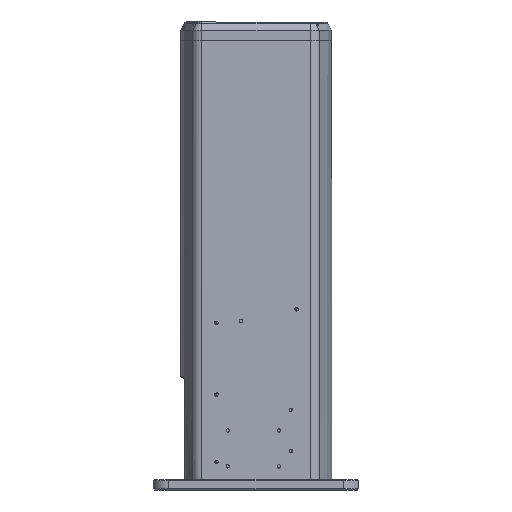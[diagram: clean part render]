
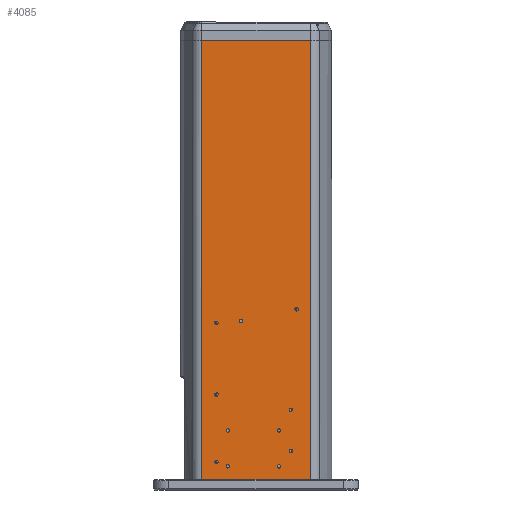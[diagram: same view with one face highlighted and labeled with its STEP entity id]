
A CAD part, left-side view. The second image highlights one B-rep face of the part: STEP entity #4085.
In plain terms, the highlighted planar face has unit normal (-1, 0, 0) as drawn and (0, 0, 1) by its records, which use the part's own axes.
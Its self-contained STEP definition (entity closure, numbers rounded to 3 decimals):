
#80=CARTESIAN_POINT('Vertex',(549.077,-39.277,63.)) ;
#85=CARTESIAN_POINT('Axis2P3D Location',(550.5,-38.5,63.)) ;
#89=CARTESIAN_POINT('Vertex',(551.923,-37.723,63.)) ;
#116=CARTESIAN_POINT('Axis2P3D Location',(550.5,-38.5,63.)) ;
#297=CARTESIAN_POINT('Axis2P3D Location',(555.,22.5,63.)) ;
#301=CARTESIAN_POINT('Vertex',(556.423,21.723,63.)) ;
#303=CARTESIAN_POINT('Vertex',(553.577,23.277,63.)) ;
#337=CARTESIAN_POINT('Axis2P3D Location',(555.,22.5,63.)) ;
#359=CARTESIAN_POINT('Axis2P3D Location',(555.,-27.5,63.)) ;
#363=CARTESIAN_POINT('Vertex',(556.423,-28.277,63.)) ;
#365=CARTESIAN_POINT('Vertex',(553.577,-26.723,63.)) ;
#399=CARTESIAN_POINT('Axis2P3D Location',(555.,-27.5,63.)) ;
#421=CARTESIAN_POINT('Axis2P3D Location',(413.5,-14.5,63.)) ;
#425=CARTESIAN_POINT('Vertex',(414.923,-15.277,63.)) ;
#427=CARTESIAN_POINT('Vertex',(412.077,-13.723,63.)) ;
#461=CARTESIAN_POINT('Axis2P3D Location',(413.5,-14.5,63.)) ;
#483=CARTESIAN_POINT('Axis2P3D Location',(520.,-27.5,63.)) ;
#487=CARTESIAN_POINT('Vertex',(521.423,-28.277,63.)) ;
#489=CARTESIAN_POINT('Vertex',(518.577,-26.723,63.)) ;
#523=CARTESIAN_POINT('Axis2P3D Location',(520.,-27.5,63.)) ;
#558=CARTESIAN_POINT('Vertex',(498.577,33.223,63.)) ;
#561=CARTESIAN_POINT('Axis2P3D Location',(500.,34.,63.)) ;
#565=CARTESIAN_POINT('Vertex',(501.423,34.777,63.)) ;
#590=CARTESIAN_POINT('Axis2P3D Location',(500.,34.,63.)) ;
#620=CARTESIAN_POINT('Vertex',(538.577,33.223,63.)) ;
#623=CARTESIAN_POINT('Axis2P3D Location',(540.,34.,63.)) ;
#627=CARTESIAN_POINT('Vertex',(541.423,34.777,63.)) ;
#652=CARTESIAN_POINT('Axis2P3D Location',(540.,34.,63.)) ;
#682=CARTESIAN_POINT('Vertex',(483.577,-39.277,63.)) ;
#685=CARTESIAN_POINT('Axis2P3D Location',(485.,-38.5,63.)) ;
#689=CARTESIAN_POINT('Vertex',(486.423,-37.723,63.)) ;
#714=CARTESIAN_POINT('Axis2P3D Location',(485.,-38.5,63.)) ;
#744=CARTESIAN_POINT('Vertex',(413.577,-39.277,63.)) ;
#747=CARTESIAN_POINT('Axis2P3D Location',(415.,-38.5,63.)) ;
#751=CARTESIAN_POINT('Vertex',(416.423,-37.723,63.)) ;
#776=CARTESIAN_POINT('Axis2P3D Location',(415.,-38.5,63.)) ;
#1089=CARTESIAN_POINT('Vertex',(400.577,38.723,63.)) ;
#1094=CARTESIAN_POINT('Axis2P3D Location',(402.,39.5,63.)) ;
#1098=CARTESIAN_POINT('Vertex',(403.423,40.277,63.)) ;
#1125=CARTESIAN_POINT('Axis2P3D Location',(402.,39.5,63.)) ;
#1209=CARTESIAN_POINT('Axis2P3D Location',(520.,22.5,63.)) ;
#1213=CARTESIAN_POINT('Vertex',(521.423,21.723,63.)) ;
#1215=CARTESIAN_POINT('Vertex',(518.577,23.277,63.)) ;
#1249=CARTESIAN_POINT('Axis2P3D Location',(520.,22.5,63.)) ;
#3449=CARTESIAN_POINT('Vertex',(568.,52.706,63.)) ;
#3452=CARTESIAN_POINT('Line Origine',(568.,0.,63.)) ;
#3456=CARTESIAN_POINT('Vertex',(568.,-52.706,63.)) ;
#4011=CARTESIAN_POINT('Axis2P3D Location',(0.,63.,63.)) ;
#4016=CARTESIAN_POINT('Line Origine',(354.,-52.706,63.)) ;
#4020=CARTESIAN_POINT('Vertex',(140.,-52.706,63.)) ;
#4023=CARTESIAN_POINT('Line Origine',(354.,52.706,63.)) ;
#4027=CARTESIAN_POINT('Vertex',(140.,52.706,63.)) ;
#4030=CARTESIAN_POINT('Line Origine',(140.,0.,63.)) ;
#86=DIRECTION('Axis2P3D Direction',(0.,0.,1.)) ;
#117=DIRECTION('Axis2P3D Direction',(0.,-0.,1.)) ;
#298=DIRECTION('Axis2P3D Direction',(0.,0.,-1.)) ;
#338=DIRECTION('Axis2P3D Direction',(0.,0.,-1.)) ;
#360=DIRECTION('Axis2P3D Direction',(0.,0.,-1.)) ;
#400=DIRECTION('Axis2P3D Direction',(0.,0.,-1.)) ;
#422=DIRECTION('Axis2P3D Direction',(0.,0.,-1.)) ;
#462=DIRECTION('Axis2P3D Direction',(0.,-0.,-1.)) ;
#484=DIRECTION('Axis2P3D Direction',(0.,0.,-1.)) ;
#524=DIRECTION('Axis2P3D Direction',(0.,-0.,-1.)) ;
#562=DIRECTION('Axis2P3D Direction',(0.,0.,1.)) ;
#591=DIRECTION('Axis2P3D Direction',(0.,-0.,1.)) ;
#624=DIRECTION('Axis2P3D Direction',(0.,0.,1.)) ;
#653=DIRECTION('Axis2P3D Direction',(0.,-0.,1.)) ;
#686=DIRECTION('Axis2P3D Direction',(0.,0.,1.)) ;
#715=DIRECTION('Axis2P3D Direction',(0.,-0.,1.)) ;
#748=DIRECTION('Axis2P3D Direction',(0.,0.,1.)) ;
#777=DIRECTION('Axis2P3D Direction',(0.,-0.,1.)) ;
#1095=DIRECTION('Axis2P3D Direction',(0.,0.,1.)) ;
#1126=DIRECTION('Axis2P3D Direction',(0.,-0.,1.)) ;
#1210=DIRECTION('Axis2P3D Direction',(0.,0.,-1.)) ;
#1250=DIRECTION('Axis2P3D Direction',(0.,0.,-1.)) ;
#3453=DIRECTION('Vector Direction',(0.,-1.,0.)) ;
#4012=DIRECTION('Axis2P3D Direction',(-0.,0.,1.)) ;
#4013=DIRECTION('Axis2P3D XDirection',(0.,-1.,0.)) ;
#4017=DIRECTION('Vector Direction',(-1.,0.,0.)) ;
#4024=DIRECTION('Vector Direction',(-1.,0.,0.)) ;
#4031=DIRECTION('Vector Direction',(0.,-1.,0.)) ;
#87=AXIS2_PLACEMENT_3D('Circle Axis2P3D',#85,#86,$) ;
#118=AXIS2_PLACEMENT_3D('Circle Axis2P3D',#116,#117,$) ;
#299=AXIS2_PLACEMENT_3D('Circle Axis2P3D',#297,#298,$) ;
#339=AXIS2_PLACEMENT_3D('Circle Axis2P3D',#337,#338,$) ;
#361=AXIS2_PLACEMENT_3D('Circle Axis2P3D',#359,#360,$) ;
#401=AXIS2_PLACEMENT_3D('Circle Axis2P3D',#399,#400,$) ;
#423=AXIS2_PLACEMENT_3D('Circle Axis2P3D',#421,#422,$) ;
#463=AXIS2_PLACEMENT_3D('Circle Axis2P3D',#461,#462,$) ;
#485=AXIS2_PLACEMENT_3D('Circle Axis2P3D',#483,#484,$) ;
#525=AXIS2_PLACEMENT_3D('Circle Axis2P3D',#523,#524,$) ;
#563=AXIS2_PLACEMENT_3D('Circle Axis2P3D',#561,#562,$) ;
#592=AXIS2_PLACEMENT_3D('Circle Axis2P3D',#590,#591,$) ;
#625=AXIS2_PLACEMENT_3D('Circle Axis2P3D',#623,#624,$) ;
#654=AXIS2_PLACEMENT_3D('Circle Axis2P3D',#652,#653,$) ;
#687=AXIS2_PLACEMENT_3D('Circle Axis2P3D',#685,#686,$) ;
#716=AXIS2_PLACEMENT_3D('Circle Axis2P3D',#714,#715,$) ;
#749=AXIS2_PLACEMENT_3D('Circle Axis2P3D',#747,#748,$) ;
#778=AXIS2_PLACEMENT_3D('Circle Axis2P3D',#776,#777,$) ;
#1096=AXIS2_PLACEMENT_3D('Circle Axis2P3D',#1094,#1095,$) ;
#1127=AXIS2_PLACEMENT_3D('Circle Axis2P3D',#1125,#1126,$) ;
#1211=AXIS2_PLACEMENT_3D('Circle Axis2P3D',#1209,#1210,$) ;
#1251=AXIS2_PLACEMENT_3D('Circle Axis2P3D',#1249,#1250,$) ;
#4014=AXIS2_PLACEMENT_3D('Plane Axis2P3D',#4011,#4012,#4013) ;
#4036=ORIENTED_EDGE('',*,*,#4022,.T.) ;
#4037=ORIENTED_EDGE('',*,*,#3458,.F.) ;
#4038=ORIENTED_EDGE('',*,*,#4029,.F.) ;
#4039=ORIENTED_EDGE('',*,*,#4034,.T.) ;
#4042=ORIENTED_EDGE('',*,*,#1217,.F.) ;
#4043=ORIENTED_EDGE('',*,*,#1253,.F.) ;
#4046=ORIENTED_EDGE('',*,*,#1129,.F.) ;
#4047=ORIENTED_EDGE('',*,*,#1100,.F.) ;
#4050=ORIENTED_EDGE('',*,*,#780,.F.) ;
#4051=ORIENTED_EDGE('',*,*,#753,.F.) ;
#4054=ORIENTED_EDGE('',*,*,#718,.F.) ;
#4055=ORIENTED_EDGE('',*,*,#691,.F.) ;
#4058=ORIENTED_EDGE('',*,*,#656,.F.) ;
#4059=ORIENTED_EDGE('',*,*,#629,.F.) ;
#4062=ORIENTED_EDGE('',*,*,#594,.F.) ;
#4063=ORIENTED_EDGE('',*,*,#567,.F.) ;
#4066=ORIENTED_EDGE('',*,*,#527,.F.) ;
#4067=ORIENTED_EDGE('',*,*,#491,.F.) ;
#4070=ORIENTED_EDGE('',*,*,#465,.F.) ;
#4071=ORIENTED_EDGE('',*,*,#429,.F.) ;
#4074=ORIENTED_EDGE('',*,*,#341,.F.) ;
#4075=ORIENTED_EDGE('',*,*,#305,.F.) ;
#4078=ORIENTED_EDGE('',*,*,#403,.F.) ;
#4079=ORIENTED_EDGE('',*,*,#367,.F.) ;
#4082=ORIENTED_EDGE('',*,*,#91,.F.) ;
#4083=ORIENTED_EDGE('',*,*,#120,.F.) ;
#4044=FACE_BOUND('',#4041,.T.) ;
#4048=FACE_BOUND('',#4045,.T.) ;
#4052=FACE_BOUND('',#4049,.T.) ;
#4056=FACE_BOUND('',#4053,.T.) ;
#4060=FACE_BOUND('',#4057,.T.) ;
#4064=FACE_BOUND('',#4061,.T.) ;
#4068=FACE_BOUND('',#4065,.T.) ;
#4072=FACE_BOUND('',#4069,.T.) ;
#4076=FACE_BOUND('',#4073,.T.) ;
#4080=FACE_BOUND('',#4077,.T.) ;
#4084=FACE_BOUND('',#4081,.T.) ;
#3454=VECTOR('Line Direction',#3453,1.) ;
#4018=VECTOR('Line Direction',#4017,1.) ;
#4025=VECTOR('Line Direction',#4024,1.) ;
#4032=VECTOR('Line Direction',#4031,1.) ;
#4085=ADVANCED_FACE('\X2\96F64EF651E04F554F53\X0\',(#4040,#4044,#4048,#4052,#4056,#4060,#4064,#4068,#4072,#4076,#4080,#4084),#4015,.T.) ;
#88=CIRCLE('generated circle',#87,1.621) ;
#119=CIRCLE('generated circle',#118,1.621) ;
#300=CIRCLE('generated circle',#299,1.621) ;
#340=CIRCLE('generated circle',#339,1.621) ;
#362=CIRCLE('generated circle',#361,1.621) ;
#402=CIRCLE('generated circle',#401,1.621) ;
#424=CIRCLE('generated circle',#423,1.621) ;
#464=CIRCLE('generated circle',#463,1.621) ;
#486=CIRCLE('generated circle',#485,1.621) ;
#526=CIRCLE('generated circle',#525,1.621) ;
#564=CIRCLE('generated circle',#563,1.621) ;
#593=CIRCLE('generated circle',#592,1.621) ;
#626=CIRCLE('generated circle',#625,1.621) ;
#655=CIRCLE('generated circle',#654,1.621) ;
#688=CIRCLE('generated circle',#687,1.621) ;
#717=CIRCLE('generated circle',#716,1.621) ;
#750=CIRCLE('generated circle',#749,1.621) ;
#779=CIRCLE('generated circle',#778,1.621) ;
#1097=CIRCLE('generated circle',#1096,1.621) ;
#1128=CIRCLE('generated circle',#1127,1.621) ;
#1212=CIRCLE('generated circle',#1211,1.621) ;
#1252=CIRCLE('generated circle',#1251,1.621) ;
#91=EDGE_CURVE('',#81,#90,#88,.T.) ;
#120=EDGE_CURVE('',#90,#81,#119,.T.) ;
#305=EDGE_CURVE('',#302,#304,#300,.F.) ;
#341=EDGE_CURVE('',#304,#302,#340,.F.) ;
#367=EDGE_CURVE('',#364,#366,#362,.F.) ;
#403=EDGE_CURVE('',#366,#364,#402,.F.) ;
#429=EDGE_CURVE('',#426,#428,#424,.F.) ;
#465=EDGE_CURVE('',#428,#426,#464,.F.) ;
#491=EDGE_CURVE('',#488,#490,#486,.F.) ;
#527=EDGE_CURVE('',#490,#488,#526,.F.) ;
#567=EDGE_CURVE('',#559,#566,#564,.T.) ;
#594=EDGE_CURVE('',#566,#559,#593,.T.) ;
#629=EDGE_CURVE('',#621,#628,#626,.T.) ;
#656=EDGE_CURVE('',#628,#621,#655,.T.) ;
#691=EDGE_CURVE('',#683,#690,#688,.T.) ;
#718=EDGE_CURVE('',#690,#683,#717,.T.) ;
#753=EDGE_CURVE('',#745,#752,#750,.T.) ;
#780=EDGE_CURVE('',#752,#745,#779,.T.) ;
#1100=EDGE_CURVE('',#1090,#1099,#1097,.T.) ;
#1129=EDGE_CURVE('',#1099,#1090,#1128,.T.) ;
#1217=EDGE_CURVE('',#1214,#1216,#1212,.F.) ;
#1253=EDGE_CURVE('',#1216,#1214,#1252,.F.) ;
#3458=EDGE_CURVE('',#3450,#3457,#3455,.T.) ;
#4022=EDGE_CURVE('',#4021,#3457,#4019,.F.) ;
#4029=EDGE_CURVE('',#4028,#3450,#4026,.F.) ;
#4034=EDGE_CURVE('',#4028,#4021,#4033,.T.) ;
#4035=EDGE_LOOP('',(#4036,#4037,#4038,#4039)) ;
#4041=EDGE_LOOP('',(#4042,#4043)) ;
#4045=EDGE_LOOP('',(#4046,#4047)) ;
#4049=EDGE_LOOP('',(#4050,#4051)) ;
#4053=EDGE_LOOP('',(#4054,#4055)) ;
#4057=EDGE_LOOP('',(#4058,#4059)) ;
#4061=EDGE_LOOP('',(#4062,#4063)) ;
#4065=EDGE_LOOP('',(#4066,#4067)) ;
#4069=EDGE_LOOP('',(#4070,#4071)) ;
#4073=EDGE_LOOP('',(#4074,#4075)) ;
#4077=EDGE_LOOP('',(#4078,#4079)) ;
#4081=EDGE_LOOP('',(#4082,#4083)) ;
#4040=FACE_OUTER_BOUND('',#4035,.T.) ;
#3455=LINE('Line',#3452,#3454) ;
#4019=LINE('Line',#4016,#4018) ;
#4026=LINE('Line',#4023,#4025) ;
#4033=LINE('Line',#4030,#4032) ;
#4015=PLANE('Plane',#4014) ;
#81=VERTEX_POINT('',#80) ;
#90=VERTEX_POINT('',#89) ;
#302=VERTEX_POINT('',#301) ;
#304=VERTEX_POINT('',#303) ;
#364=VERTEX_POINT('',#363) ;
#366=VERTEX_POINT('',#365) ;
#426=VERTEX_POINT('',#425) ;
#428=VERTEX_POINT('',#427) ;
#488=VERTEX_POINT('',#487) ;
#490=VERTEX_POINT('',#489) ;
#559=VERTEX_POINT('',#558) ;
#566=VERTEX_POINT('',#565) ;
#621=VERTEX_POINT('',#620) ;
#628=VERTEX_POINT('',#627) ;
#683=VERTEX_POINT('',#682) ;
#690=VERTEX_POINT('',#689) ;
#745=VERTEX_POINT('',#744) ;
#752=VERTEX_POINT('',#751) ;
#1090=VERTEX_POINT('',#1089) ;
#1099=VERTEX_POINT('',#1098) ;
#1214=VERTEX_POINT('',#1213) ;
#1216=VERTEX_POINT('',#1215) ;
#3450=VERTEX_POINT('',#3449) ;
#3457=VERTEX_POINT('',#3456) ;
#4021=VERTEX_POINT('',#4020) ;
#4028=VERTEX_POINT('',#4027) ;
